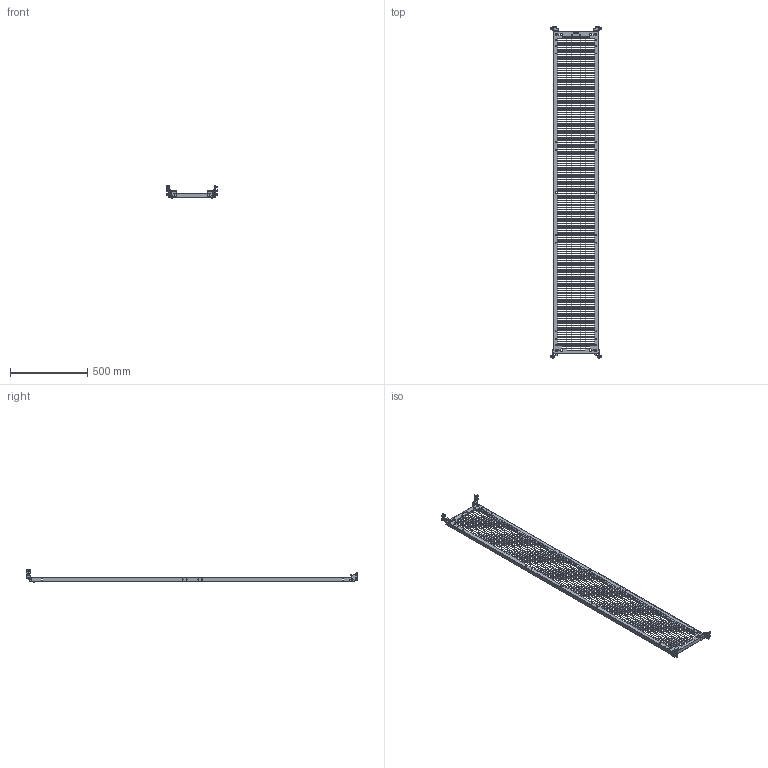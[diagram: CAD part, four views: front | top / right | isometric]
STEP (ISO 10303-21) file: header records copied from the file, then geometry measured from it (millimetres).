
FILE_DESCRIPTION (( 'STEP AP203' ), '1' );
FILE_NAME ('R5NPCEP2240.STEP', '2025-03-26T11:05:41', ( '' ), ( '' ), 'SwSTEP 2.0', 'SolidWorks 2022', '' );
FILE_SCHEMA (( 'CONFIG_CONTROL_DESIGN' ));
Length unit declared in the file: millimetre
Products named in the file (20): RB.2684.00.03.0; RB.2684.00.01.0; RB.2697.00.00.0; M6 MGR-MKO-0625_1,5mm (thread); RB.1499.00.03.0; М6 D87181 Zinc_In a tightened position (1.5 mm); AC00C237; M6x16 DIN 7985 Torx cl.8,8 Zinc_stright; RB.2684.00.00.0 СБ_-01; RB.2628.00.00.0_-31; RB.2814.00.00.0 СБ; M6x16 DIN 912 HX cl.4,8 Zinc_thread; RB.2814.00.01.0_-01; 003-006-19 GOST 9833-73; RB.2814.00.00.0 СБ_-01; RB.2684.00.00.0 СБ; RB.2814.00.01.0; R5NPCEP2240; RB.2709.00.00.0; RB.2684.00.01.0_-01
Assembly tree (43 placements, depth 3):
  R5NPCEP2240
    RB.2628.00.00.0_-31
    RB.2814.00.00.0 СБ_-01
      RB.2814.00.01.0_-01
      M6 MGR-MKO-0625_1,5mm (thread)
    RB.2814.00.00.0 СБ
      RB.2814.00.01.0
      M6 MGR-MKO-0625_1,5mm (thread)
    M6x16 DIN 912 HX cl.4,8 Zinc_thread  x2
    AC00C237  x2
    RB.2684.00.00.0 СБ_-01
      RB.2684.00.01.0_-01
      RB.2684.00.03.0
      RB.1499.00.03.0
      RB.2697.00.00.0
      003-006-19 GOST 9833-73  x2
    RB.2684.00.00.0 СБ
      RB.2684.00.01.0
      RB.2684.00.03.0
      RB.1499.00.03.0
      003-006-19 GOST 9833-73  x2
      RB.2697.00.00.0
    M6x16 DIN 7985 Torx cl.8,8 Zinc_stright  x8
    М6 D87181 Zinc_In a tightened position (1.5 mm)  x8
    RB.2709.00.00.0  x2
Bounding box: 328.3 x 2150.46 x 84.5 mm (x, y, z)
Volume: 1288368.4 mm3; surface area: 1250790.7 mm2
Topology: 39 solids, 39 shells, 6593 faces, 19023 edges, 12439 vertices
Faces by surface type: plane 5454, cylinder 512, bspline 301, cone 186, torus 132, sphere 8
Full cylindrical faces by diameter (mm): 0.6 x12, 2.3 x4, 2.5 x4, 3.8 x6, 4 x2, 4.2 x4, 4.92 x14, 5 x16, 6 x58, 6.5 x8, 6.7 x2, 7 x12, 7.5 x2, 8 x4, 8.3 x8, 9 x6, 10 x4, 12 x26, 15 x6
Entity records: 178323 total; most frequent: CARTESIAN_POINT 34501, ORIENTED_EDGE 29932, DIRECTION 25511, EDGE_CURVE 14966, VECTOR 14341, LINE 14341, VERTEX_POINT 10044, EDGE_LOOP 7706
